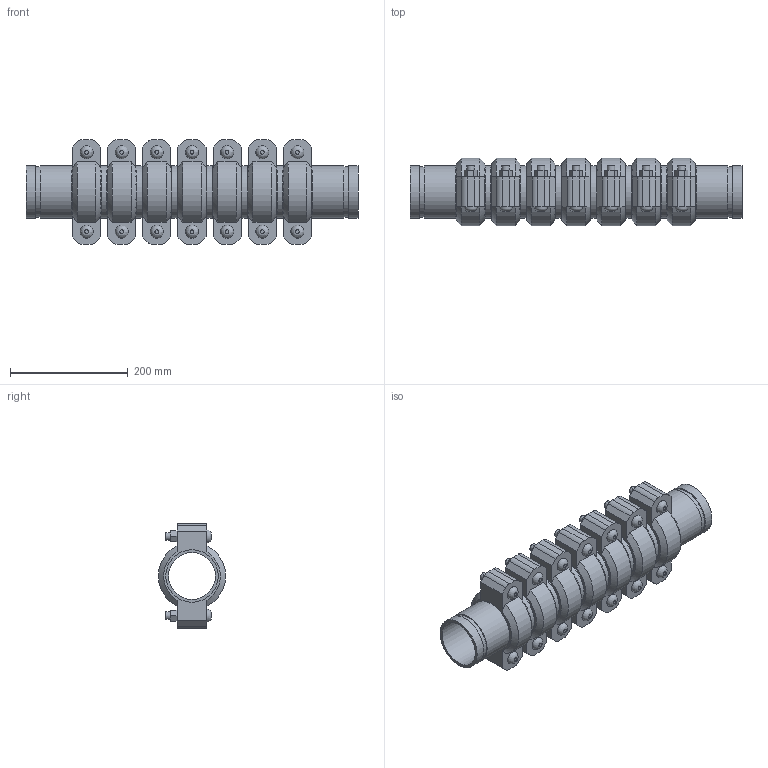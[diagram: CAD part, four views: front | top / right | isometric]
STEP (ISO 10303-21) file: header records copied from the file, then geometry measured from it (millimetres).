
FILE_DESCRIPTION(/* description */ ('VIC SS EXPANSION JOINT 7 COUPLINGS NEUTRAL STYLE 155P (OGS) (POTABLE WATER) ','CAx-IF Rec.Pracs.---Representation and Presentation of Product Manufacturing Information (PMI)---4.0---2014-10-13'),/* implementation_level */ '2;1');
FILE_NAME(/* name */ 'C:\Users\kkamble\AppData\Roaming\Autodesk\ApplicationPlugins\Victaulic.Temp\A807\Victaulic_SS_Expansion Joint_Neutral_7 Couplings_Style 155P (OGS)-Potable Water_7 Coup_Neut_3 (80).stp',/* time_stamp */ '2021-07-16T16:37:19+05:00',/* author */ ('kkamble'),/* organization */ ('Victaulic'),/* preprocessor_version */ 'ST-DEVELOPER v17.2',/* originating_system */ 'Autodesk Inventor 2019',/* authorisation */ '');
FILE_SCHEMA (('AP242_MANAGED_MODEL_BASED_3D_ENGINEERING_MIM_LF { 1 0 10303 442 1 1 4 }'));
Length unit declared in the file: inch
Products named in the file (4): 155P-03.0; Nipple-03.0; Nipple-03.0_1; 075-03.0
Assembly tree (15 placements, depth 2):
  155P-03.0
    Nipple-03.0  x2
    Nipple-03.0_1  x6
    075-03.0  x7
Bounding box: 562.86 x 113.88 x 177.8 mm (x, y, z)
Volume: 2955061.3 mm3; surface area: 751723.3 mm2
Topology: 15 solids, 29 shells, 495 faces, 1171 edges, 822 vertices
Faces by surface type: plane 300, cylinder 153, cone 28, bspline 14
Full cylindrical faces by diameter (mm): 12.7 x28, 14.605 x14, 79.35 x8, 82.55 x7, 84.938 x16, 88.9 x38
Entity records: 2833 total; most frequent: CARTESIAN_POINT 499, DIRECTION 473, ORIENTED_EDGE 386, EDGE_CURVE 193, AXIS2_PLACEMENT_3D 190, VERTEX_POINT 138, EDGE_LOOP 107, LINE 93
